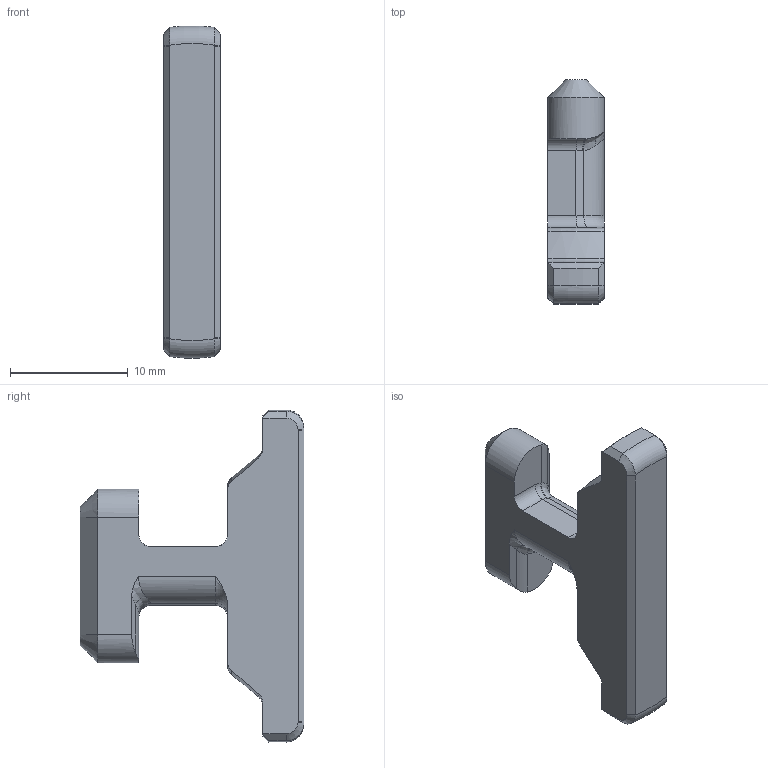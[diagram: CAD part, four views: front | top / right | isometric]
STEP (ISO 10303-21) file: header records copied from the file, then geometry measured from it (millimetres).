
FILE_DESCRIPTION(/* description */ (''),/* implementation_level */ '2;1');
FILE_NAME(/* name */ 'C:/Users/Will/Desktop/Twist Clip.step',/* time_stamp */ '2022-09-18T13:50:42-06:00',/* author */ (''),/* organization */ (''),/* preprocessor_version */ 'ST-DEVELOPER v19',/* originating_system */ 'Autodesk Translation Framework v11.7.0.108',/* authorisation */ '');
FILE_SCHEMA (('AUTOMOTIVE_DESIGN { 1 0 10303 214 3 1 1 }'));
Length unit declared in the file: millimetre
Products named in the file (1): Twist Clip
Bounding box: 4.8 x 19.05 x 28.26 mm (x, y, z)
Volume: 1180.3 mm3; surface area: 940.9 mm2
Topology: 1 solids, 1 shells, 68 faces, 174 edges, 108 vertices
Faces by surface type: plane 24, cylinder 16, bspline 14, torus 8, cone 6
Entity records: 2568 total; most frequent: CARTESIAN_POINT 983, ORIENTED_EDGE 348, DIRECTION 290, EDGE_CURVE 174, VERTEX_POINT 108, AXIS2_PLACEMENT_3D 107, LINE 76, VECTOR 76
